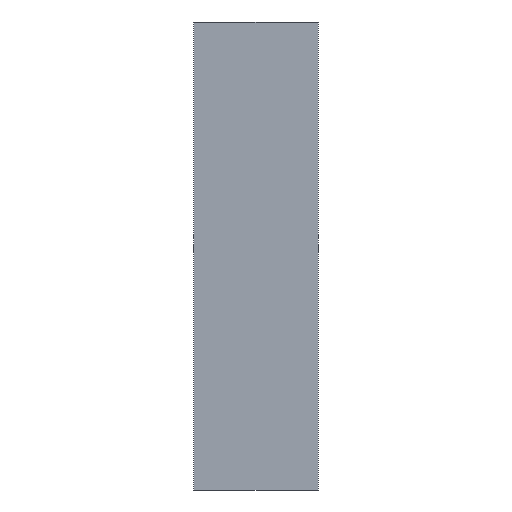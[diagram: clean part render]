
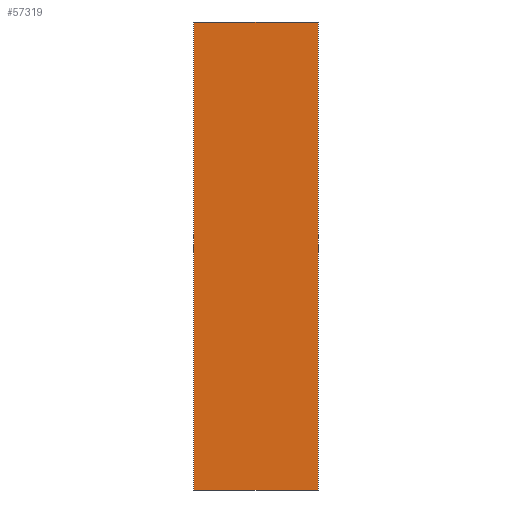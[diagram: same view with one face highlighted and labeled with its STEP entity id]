
A CAD part, front view. The second image highlights one B-rep face of the part: STEP entity #57319.
In plain terms, the highlighted planar face has unit normal (0, -1, 0).
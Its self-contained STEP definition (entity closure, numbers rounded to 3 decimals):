
#1=DIRECTION('',(1.,0.,0.));
#2=VECTOR('',#1,80.);
#3=CARTESIAN_POINT('',(-40.,101.9,69.93));
#4=LINE('',#3,#2);
#5=DIRECTION('',(0.,0.,-1.));
#6=VECTOR('',#5,300.);
#7=CARTESIAN_POINT('',(40.,101.9,69.93));
#8=LINE('',#7,#6);
#9=DIRECTION('',(-1.,0.,0.));
#10=VECTOR('',#9,80.);
#11=CARTESIAN_POINT('',(40.,101.9,-230.07));
#12=LINE('',#11,#10);
#13=DIRECTION('',(0.,0.,1.));
#14=VECTOR('',#13,300.);
#15=CARTESIAN_POINT('',(-40.,101.9,-230.07));
#16=LINE('',#15,#14);
#57190=CARTESIAN_POINT('',(-40.,101.9,69.93));
#57191=CARTESIAN_POINT('',(40.,101.9,69.93));
#57192=VERTEX_POINT('',#57190);
#57193=VERTEX_POINT('',#57191);
#57194=CARTESIAN_POINT('',(40.,101.9,-230.07));
#57195=VERTEX_POINT('',#57194);
#57196=CARTESIAN_POINT('',(-40.,101.9,-230.07));
#57197=VERTEX_POINT('',#57196);
#57304=CARTESIAN_POINT('',(0.,101.9,-0.07));
#57305=DIRECTION('',(0.,-1.,0.));
#57306=DIRECTION('',(0.,0.,-1.));
#57307=AXIS2_PLACEMENT_3D('',#57304,#57305,#57306);
#57308=PLANE('',#57307);
#57310=ORIENTED_EDGE('',*,*,#57309,.T.);
#57312=ORIENTED_EDGE('',*,*,#57311,.T.);
#57314=ORIENTED_EDGE('',*,*,#57313,.T.);
#57316=ORIENTED_EDGE('',*,*,#57315,.T.);
#57317=EDGE_LOOP('',(#57310,#57312,#57314,#57316));
#57318=FACE_OUTER_BOUND('',#57317,.F.);
#57319=ADVANCED_FACE('',(#57318),#57308,.T.);
#57309=EDGE_CURVE('',#57192,#57193,#4,.T.);
#57311=EDGE_CURVE('',#57193,#57195,#8,.T.);
#57313=EDGE_CURVE('',#57195,#57197,#12,.T.);
#57315=EDGE_CURVE('',#57197,#57192,#16,.T.);
